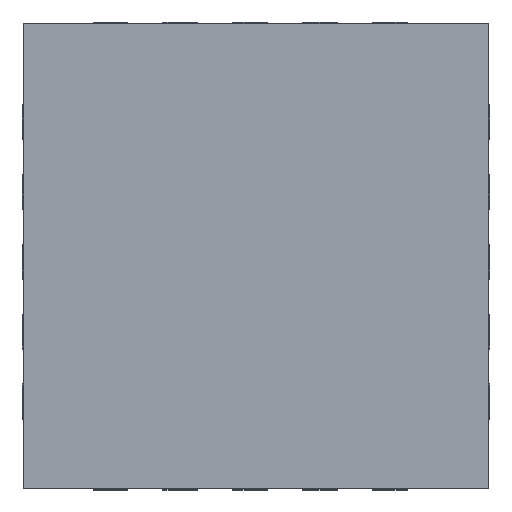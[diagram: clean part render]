
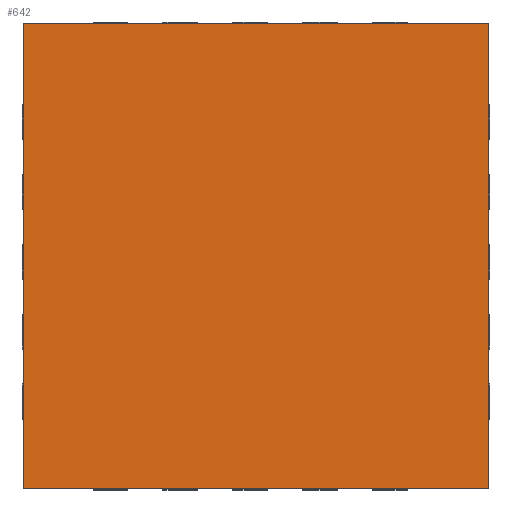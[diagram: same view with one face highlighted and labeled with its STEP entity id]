
A CAD part, top view. The second image highlights one B-rep face of the part: STEP entity #642.
In plain terms, the highlighted planar face has unit normal (0, 0, 1).
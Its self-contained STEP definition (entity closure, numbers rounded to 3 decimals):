
#21 = EDGE_CURVE('',#22,#24,#26,.T.);
#22 = VERTEX_POINT('',#23);
#23 = CARTESIAN_POINT('',(0.,0.,1.05));
#24 = VERTEX_POINT('',#25);
#25 = CARTESIAN_POINT('',(0.,4.,1.05));
#26 = SURFACE_CURVE('',#27,(#31,#43),.PCURVE_S1.);
#27 = LINE('',#28,#29);
#28 = CARTESIAN_POINT('',(0.,0.,1.05));
#29 = VECTOR('',#30,1.);
#30 = DIRECTION('',(0.,1.,0.));
#31 = PCURVE('',#32,#37);
#32 = PLANE('',#33);
#33 = AXIS2_PLACEMENT_3D('',#34,#35,#36);
#34 = CARTESIAN_POINT('',(0.,0.,0.05));
#35 = DIRECTION('',(1.,0.,0.));
#36 = DIRECTION('',(0.,0.,1.));
#37 = DEFINITIONAL_REPRESENTATION('',(#38),#42);
#38 = LINE('',#39,#40);
#39 = CARTESIAN_POINT('',(1.,0.));
#40 = VECTOR('',#41,1.);
#41 = DIRECTION('',(0.,-1.));
#42 = ( GEOMETRIC_REPRESENTATION_CONTEXT(2) 
PARAMETRIC_REPRESENTATION_CONTEXT() REPRESENTATION_CONTEXT('2D SPACE',''
  ) );
#43 = PCURVE('',#44,#49);
#44 = PLANE('',#45);
#45 = AXIS2_PLACEMENT_3D('',#46,#47,#48);
#46 = CARTESIAN_POINT('',(0.,0.,1.05));
#47 = DIRECTION('',(0.,0.,1.));
#48 = DIRECTION('',(1.,0.,0.));
#49 = DEFINITIONAL_REPRESENTATION('',(#50),#54);
#50 = LINE('',#51,#52);
#51 = CARTESIAN_POINT('',(0.,0.));
#52 = VECTOR('',#53,1.);
#53 = DIRECTION('',(0.,1.));
#54 = ( GEOMETRIC_REPRESENTATION_CONTEXT(2) 
PARAMETRIC_REPRESENTATION_CONTEXT() REPRESENTATION_CONTEXT('2D SPACE',''
  ) );
#72 = PLANE('',#73);
#73 = AXIS2_PLACEMENT_3D('',#74,#75,#76);
#74 = CARTESIAN_POINT('',(0.,0.,0.05));
#75 = DIRECTION('',(0.,1.,0.));
#76 = DIRECTION('',(0.,0.,1.));
#631 = PLANE('',#632);
#632 = AXIS2_PLACEMENT_3D('',#633,#634,#635);
#633 = CARTESIAN_POINT('',(0.,4.,0.05));
#634 = DIRECTION('',(0.,1.,0.));
#635 = DIRECTION('',(0.,0.,1.));
#642 = ADVANCED_FACE('',(#643),#44,.T.);
#643 = FACE_BOUND('',#644,.T.);
#644 = EDGE_LOOP('',(#645,#646,#669,#697));
#645 = ORIENTED_EDGE('',*,*,#21,.F.);
#646 = ORIENTED_EDGE('',*,*,#647,.T.);
#647 = EDGE_CURVE('',#22,#648,#650,.T.);
#648 = VERTEX_POINT('',#649);
#649 = CARTESIAN_POINT('',(4.,0.,1.05));
#650 = SURFACE_CURVE('',#651,(#655,#662),.PCURVE_S1.);
#651 = LINE('',#652,#653);
#652 = CARTESIAN_POINT('',(0.,0.,1.05));
#653 = VECTOR('',#654,1.);
#654 = DIRECTION('',(1.,0.,0.));
#655 = PCURVE('',#44,#656);
#656 = DEFINITIONAL_REPRESENTATION('',(#657),#661);
#657 = LINE('',#658,#659);
#658 = CARTESIAN_POINT('',(0.,0.));
#659 = VECTOR('',#660,1.);
#660 = DIRECTION('',(1.,0.));
#661 = ( GEOMETRIC_REPRESENTATION_CONTEXT(2) 
PARAMETRIC_REPRESENTATION_CONTEXT() REPRESENTATION_CONTEXT('2D SPACE',''
  ) );
#662 = PCURVE('',#72,#663);
#663 = DEFINITIONAL_REPRESENTATION('',(#664),#668);
#664 = LINE('',#665,#666);
#665 = CARTESIAN_POINT('',(1.,0.));
#666 = VECTOR('',#667,1.);
#667 = DIRECTION('',(0.,1.));
#668 = ( GEOMETRIC_REPRESENTATION_CONTEXT(2) 
PARAMETRIC_REPRESENTATION_CONTEXT() REPRESENTATION_CONTEXT('2D SPACE',''
  ) );
#669 = ORIENTED_EDGE('',*,*,#670,.T.);
#670 = EDGE_CURVE('',#648,#671,#673,.T.);
#671 = VERTEX_POINT('',#672);
#672 = CARTESIAN_POINT('',(4.,4.,1.05));
#673 = SURFACE_CURVE('',#674,(#678,#685),.PCURVE_S1.);
#674 = LINE('',#675,#676);
#675 = CARTESIAN_POINT('',(4.,0.,1.05));
#676 = VECTOR('',#677,1.);
#677 = DIRECTION('',(0.,1.,0.));
#678 = PCURVE('',#44,#679);
#679 = DEFINITIONAL_REPRESENTATION('',(#680),#684);
#680 = LINE('',#681,#682);
#681 = CARTESIAN_POINT('',(4.,0.));
#682 = VECTOR('',#683,1.);
#683 = DIRECTION('',(0.,1.));
#684 = ( GEOMETRIC_REPRESENTATION_CONTEXT(2) 
PARAMETRIC_REPRESENTATION_CONTEXT() REPRESENTATION_CONTEXT('2D SPACE',''
  ) );
#685 = PCURVE('',#686,#691);
#686 = PLANE('',#687);
#687 = AXIS2_PLACEMENT_3D('',#688,#689,#690);
#688 = CARTESIAN_POINT('',(4.,0.,0.05));
#689 = DIRECTION('',(1.,0.,0.));
#690 = DIRECTION('',(0.,0.,1.));
#691 = DEFINITIONAL_REPRESENTATION('',(#692),#696);
#692 = LINE('',#693,#694);
#693 = CARTESIAN_POINT('',(1.,0.));
#694 = VECTOR('',#695,1.);
#695 = DIRECTION('',(0.,-1.));
#696 = ( GEOMETRIC_REPRESENTATION_CONTEXT(2) 
PARAMETRIC_REPRESENTATION_CONTEXT() REPRESENTATION_CONTEXT('2D SPACE',''
  ) );
#697 = ORIENTED_EDGE('',*,*,#698,.F.);
#698 = EDGE_CURVE('',#24,#671,#699,.T.);
#699 = SURFACE_CURVE('',#700,(#704,#711),.PCURVE_S1.);
#700 = LINE('',#701,#702);
#701 = CARTESIAN_POINT('',(0.,4.,1.05));
#702 = VECTOR('',#703,1.);
#703 = DIRECTION('',(1.,0.,0.));
#704 = PCURVE('',#44,#705);
#705 = DEFINITIONAL_REPRESENTATION('',(#706),#710);
#706 = LINE('',#707,#708);
#707 = CARTESIAN_POINT('',(0.,4.));
#708 = VECTOR('',#709,1.);
#709 = DIRECTION('',(1.,0.));
#710 = ( GEOMETRIC_REPRESENTATION_CONTEXT(2) 
PARAMETRIC_REPRESENTATION_CONTEXT() REPRESENTATION_CONTEXT('2D SPACE',''
  ) );
#711 = PCURVE('',#631,#712);
#712 = DEFINITIONAL_REPRESENTATION('',(#713),#717);
#713 = LINE('',#714,#715);
#714 = CARTESIAN_POINT('',(1.,0.));
#715 = VECTOR('',#716,1.);
#716 = DIRECTION('',(0.,1.));
#717 = ( GEOMETRIC_REPRESENTATION_CONTEXT(2) 
PARAMETRIC_REPRESENTATION_CONTEXT() REPRESENTATION_CONTEXT('2D SPACE',''
  ) );
